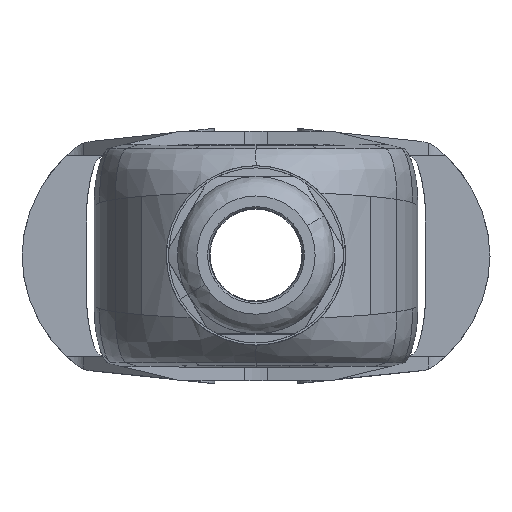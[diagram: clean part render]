
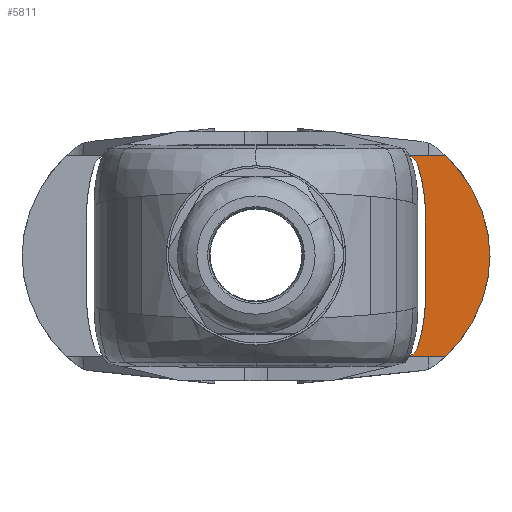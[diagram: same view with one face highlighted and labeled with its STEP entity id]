
A CAD part, top view. The second image highlights one B-rep face of the part: STEP entity #5811.
In plain terms, the highlighted planar face has unit normal (0, 0, 1).
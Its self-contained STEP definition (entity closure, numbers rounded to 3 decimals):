
#4830=CIRCLE('',#19565,32.);
#4831=CIRCLE('',#19566,3.);
#4832=CIRCLE('',#19567,36.2);
#4833=CIRCLE('',#19568,36.2);
#4834=CIRCLE('',#19569,3.);
#4835=CIRCLE('',#19570,32.);
#5107=FACE_OUTER_BOUND('',#7121,.T.);
#5811=ADVANCED_FACE('',(#5107),#6549,.F.);
#6549=PLANE('',#19571);
#7121=EDGE_LOOP('',(#10620,#10621,#10622,#10623,#10624,#10625,#10626,#10627,
#10628));
#7915=LINE('',#23740,#9244);
#7919=LINE('',#23777,#9248);
#7920=LINE('',#23786,#9249);
#9244=VECTOR('',#20488,1.);
#9248=VECTOR('',#20504,1.);
#9249=VECTOR('',#20513,1.);
#10620=ORIENTED_EDGE('',*,*,#16254,.F.);
#10621=ORIENTED_EDGE('',*,*,#16255,.T.);
#10622=ORIENTED_EDGE('',*,*,#16256,.T.);
#10623=ORIENTED_EDGE('',*,*,#16257,.T.);
#10624=ORIENTED_EDGE('',*,*,#16244,.T.);
#10625=ORIENTED_EDGE('',*,*,#16258,.T.);
#10626=ORIENTED_EDGE('',*,*,#16259,.T.);
#10627=ORIENTED_EDGE('',*,*,#16260,.T.);
#10628=ORIENTED_EDGE('',*,*,#16261,.T.);
#14820=VERTEX_POINT('',#23739);
#14821=VERTEX_POINT('',#23741);
#14830=VERTEX_POINT('',#23775);
#14831=VERTEX_POINT('',#23776);
#14832=VERTEX_POINT('',#23778);
#14833=VERTEX_POINT('',#23780);
#14834=VERTEX_POINT('',#23783);
#14835=VERTEX_POINT('',#23785);
#14836=VERTEX_POINT('',#23787);
#16244=EDGE_CURVE('',#14821,#14820,#7915,.T.);
#16254=EDGE_CURVE('',#14830,#14831,#4830,.T.);
#16255=EDGE_CURVE('',#14830,#14832,#7919,.T.);
#16256=EDGE_CURVE('',#14832,#14833,#4831,.T.);
#16257=EDGE_CURVE('',#14833,#14821,#4832,.T.);
#16258=EDGE_CURVE('',#14820,#14834,#4833,.T.);
#16259=EDGE_CURVE('',#14834,#14835,#4834,.T.);
#16260=EDGE_CURVE('',#14835,#14836,#7920,.T.);
#16261=EDGE_CURVE('',#14836,#14831,#4835,.T.);
#19565=AXIS2_PLACEMENT_3D('',#23774,#20502,#20503);
#19566=AXIS2_PLACEMENT_3D('',#23779,#20505,#20506);
#19567=AXIS2_PLACEMENT_3D('',#23781,#20507,#20508);
#19568=AXIS2_PLACEMENT_3D('',#23782,#20509,#20510);
#19569=AXIS2_PLACEMENT_3D('',#23784,#20511,#20512);
#19570=AXIS2_PLACEMENT_3D('',#23788,#20514,#20515);
#19571=AXIS2_PLACEMENT_3D('',#23789,#20516,#20517);
#20488=DIRECTION('',(0.,-1.,0.));
#20502=DIRECTION('',(0.,0.,-1.));
#20503=DIRECTION('',(-1.,0.,0.));
#20504=DIRECTION('',(-1.,0.,0.));
#20505=DIRECTION('',(0.,0.,-1.));
#20506=DIRECTION('',(-1.,0.,0.));
#20507=DIRECTION('',(0.,0.,-1.));
#20508=DIRECTION('',(-1.,0.,0.));
#20509=DIRECTION('',(0.,0.,-1.));
#20510=DIRECTION('',(-1.,0.,0.));
#20511=DIRECTION('',(0.,0.,-1.));
#20512=DIRECTION('',(-1.,0.,0.));
#20513=DIRECTION('',(1.,0.,0.));
#20514=DIRECTION('',(0.,0.,1.));
#20515=DIRECTION('',(-1.,0.,0.));
#20516=DIRECTION('',(0.,0.,-1.));
#20517=DIRECTION('',(-1.,0.,0.));
#23739=CARTESIAN_POINT('',(38.724,-11.,-27.5));
#23740=CARTESIAN_POINT('',(38.724,0.,-27.5));
#23741=CARTESIAN_POINT('',(38.724,11.,-27.5));
#23774=CARTESIAN_POINT('',(21.506,-0.449,-27.5));
#23775=CARTESIAN_POINT('',(43.28,23.,-27.5));
#23776=CARTESIAN_POINT('',(53.502,0.,-27.5));
#23777=CARTESIAN_POINT('',(45.001,23.,-27.5));
#23778=CARTESIAN_POINT('',(34.076,23.,-27.5));
#23779=CARTESIAN_POINT('',(34.076,20.,-27.5));
#23780=CARTESIAN_POINT('',(36.924,20.941,-27.5));
#23781=CARTESIAN_POINT('',(2.552,9.584,-27.5));
#23782=CARTESIAN_POINT('',(2.552,-9.584,-27.5));
#23783=CARTESIAN_POINT('',(36.924,-20.941,-27.5));
#23784=CARTESIAN_POINT('',(34.076,-20.,-27.5));
#23785=CARTESIAN_POINT('',(34.076,-23.,-27.5));
#23786=CARTESIAN_POINT('',(34.076,-23.,-27.5));
#23787=CARTESIAN_POINT('',(43.28,-23.,-27.5));
#23788=CARTESIAN_POINT('',(21.506,0.449,-27.5));
#23789=CARTESIAN_POINT('',(34.076,20.,-27.5));
